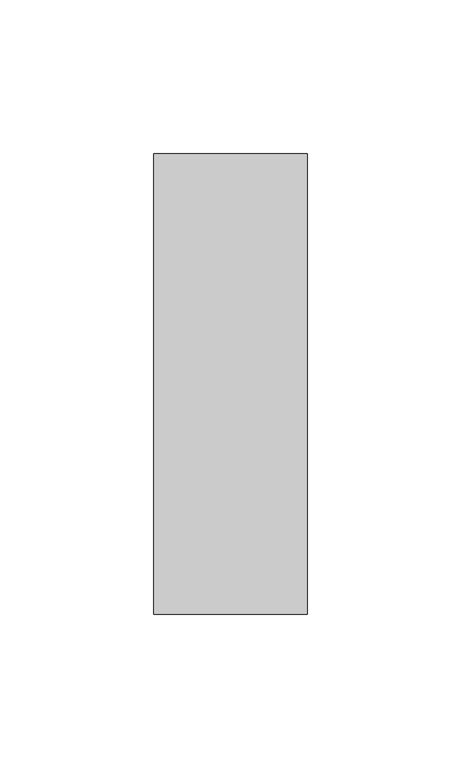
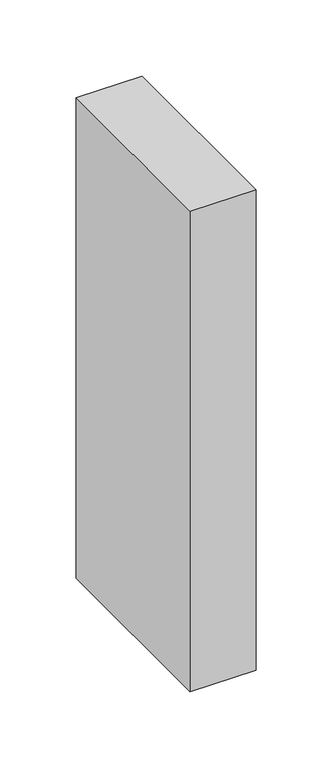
"""IFC4 building model written with IfcOpenShell, lengths in millimetres: member geometry, Прямоугольный импост : 50х150мм."""

from ifc_helpers import new_model, si_unit, frame, origin, place, context, project, spatial, polyline, outline, extrude, source, transform, mapped, element, save


def member_a620d0bf(model_context):
    return source(origin(), model_context, "Body", "SweptSolid", [
        extrude(outline(polyline([(25.0, 75.0), (25.0, -75.0), (-25.0, -75.0), (-25.0, 75.0), (25.0, 75.0)])), frame((0.0, 0.0, -385.4505288), z_axis=(0.0, 0.0, 1.0), x_axis=(1.0, 0.0, 0.0)), (0.0, 0.0, 1.0), 385.4505288),
    ])


if __name__ == "__main__":
    model = new_model("IFC4")
    model_context = context("Model", 3, world=origin())
    ifc_project = project(units=[si_unit("LENGTHUNIT", "METRE", prefix="MILLI")], contexts=[model_context])
    site = spatial("IfcSite", under=ifc_project)
    building = spatial("IfcBuilding", under=site)
    placement = place(None, origin())
    member_shape = member_a620d0bf(model_context)
    element("IfcMember", 1, ObjectType="Прямоугольный импост : 50х150мм", at=placement, inside=building, context=model_context, shape_type="MappedRepresentation", body=[
        mapped(member_shape, transform((0.0, 0.0, 0.0), x_axis=(1.0, 0.0, 0.0), y_axis=(0.0, 1.0, 0.0), z_axis=(0.0, 0.0, 1.0))),
    ])
    save(model, "model.ifc")
